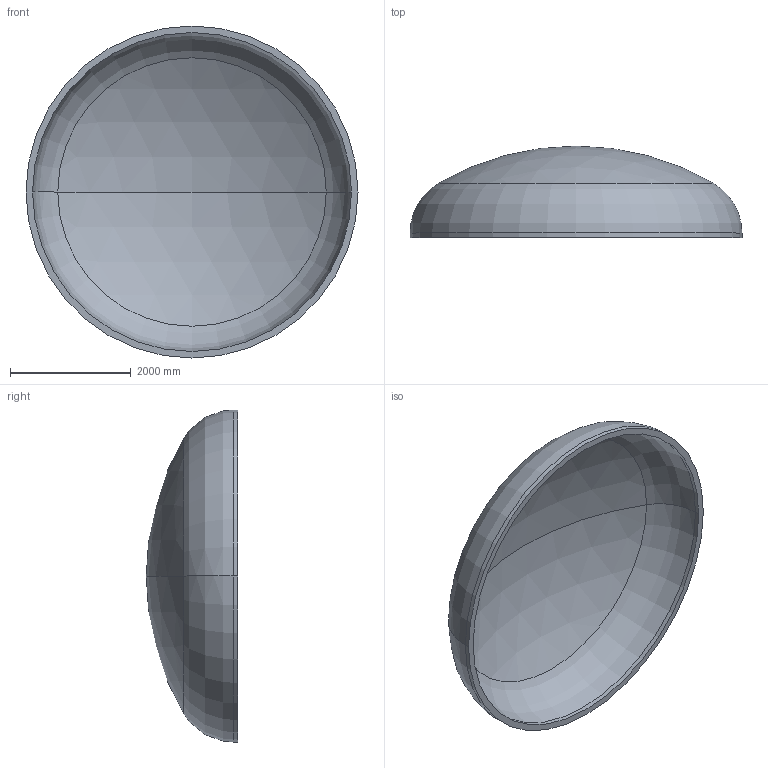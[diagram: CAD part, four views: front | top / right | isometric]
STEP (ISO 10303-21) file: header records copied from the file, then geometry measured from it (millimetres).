
FILE_DESCRIPTION (( 'STEP AP203' ), '1' );
FILE_NAME ('DIN 28013 Korbbogenform_-_Boden DIN 28013 - 5500 x 75 - I - s=108.step', '2016-07-04T10:35:17', ( '' ), ( '' ), 'SwSTEP 2.0', 'SolidWorks 2013', '' );
FILE_SCHEMA (( 'CONFIG_CONTROL_DESIGN' ));
Length unit declared in the file: millimetre
Products named in the file (1): DIN 28013 Korbbogenform_-_Boden DIN 28013 - 5500 x 75 - I - s=108
Bounding box: 5500 x 1515.62 x 5500 mm (x, y, z)
Volume: 3598601332.1 mm3; surface area: 68494632.3 mm2
Topology: 1 solids, 1 shells, 13 faces, 24 edges, 14 vertices
Faces by surface type: torus 4, cylinder 4, sphere 4, plane 1
Entity records: 407 total; most frequent: DIRECTION 72, CARTESIAN_POINT 52, ORIENTED_EDGE 48, AXIS2_PLACEMENT_3D 34, EDGE_CURVE 24, CIRCLE 20, VERTEX_POINT 14, EDGE_LOOP 14
